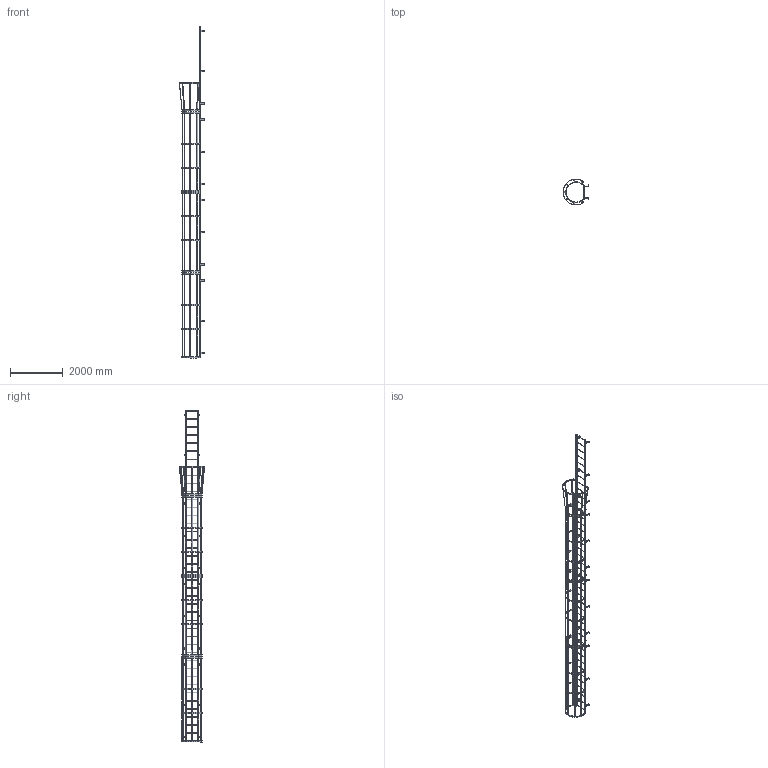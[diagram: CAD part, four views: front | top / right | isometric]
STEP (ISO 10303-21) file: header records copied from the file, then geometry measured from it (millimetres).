
FILE_DESCRIPTION(/* description */ (''),/* implementation_level */ '2;1');
FILE_NAME(/* name */ 'P:\MIKEL & KAREN\3570373 F42SC SIMPLIFIED PART.stp',/* time_stamp */ '2018-07-02T16:11:26-04:00',/* author */ ('stephanie'),/* organization */ (''),/* preprocessor_version */ 'ST-DEVELOPER v16.1',/* originating_system */ 'Autodesk Inventor 2016',/* authorisation */ '');
FILE_SCHEMA (('AUTOMOTIVE_DESIGN { 1 0 10303 214 3 1 1 }'));
Length unit declared in the file: centimetre
Products named in the file (1): 3570373 F42SC SIMPLIFIED PART
Bounding box: 974.15 x 977.88 x 12573 mm (x, y, z)
Volume: 44483658.5 mm3; surface area: 15873780.7 mm2
Topology: 56 solids, 56 shells, 1313 faces, 4011 edges, 2598 vertices
Faces by surface type: plane 880, cylinder 433
Full cylindrical faces by diameter (mm): 14.287 x30, 19.05 x42, 22.225 x84
Entity records: 45265 total; most frequent: ORIENTED_EDGE 7708, CARTESIAN_POINT 7539, DIRECTION 7456, EDGE_CURVE 3741, LINE 2654, VECTOR 2654, VERTEX_POINT 2484, AXIS2_PLACEMENT_3D 2401
